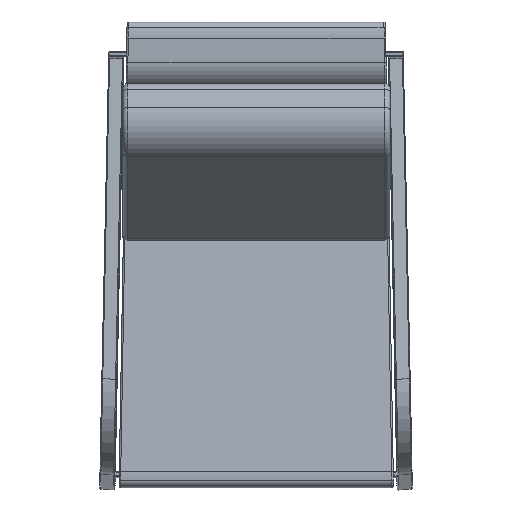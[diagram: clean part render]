
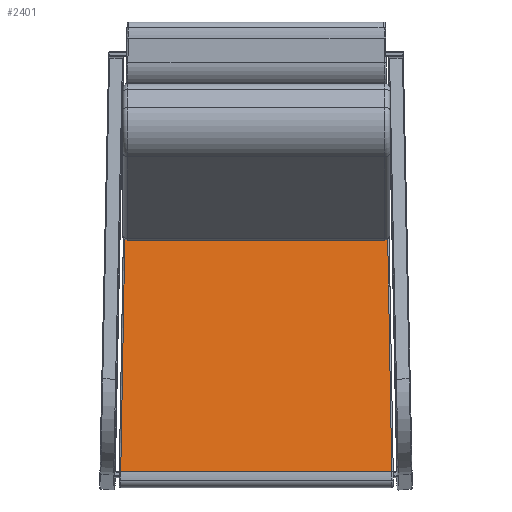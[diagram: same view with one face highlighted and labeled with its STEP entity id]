
A CAD part, top view. The second image highlights one B-rep face of the part: STEP entity #2401.
In plain terms, the highlighted planar face has unit normal (0, 0.132, 0.991).
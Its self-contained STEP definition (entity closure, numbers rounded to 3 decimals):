
#2084=CARTESIAN_POINT('',(-263.671,-297.502,-267.192));
#2085=VERTEX_POINT('',#2084);
#2118=CARTESIAN_POINT('',(-273.187,-842.698,-194.653));
#2119=VERTEX_POINT('',#2118);
#2127=CARTESIAN_POINT('',(-273.187,-842.698,-194.653));
#2128=DIRECTION('',(0.017,0.991,-0.132));
#2129=VECTOR('',#2128,550.082);
#2130=LINE('',#2127,#2129);
#2131=EDGE_CURVE('',#2119,#2085,#2130,.T.);
#2359=CARTESIAN_POINT('',(264.671,-297.502,-267.192));
#2360=VERTEX_POINT('',#2359);
#2361=CARTESIAN_POINT('',(-263.671,-297.502,-267.192));
#2362=DIRECTION('',(1.0,0.0,0.0));
#2363=VECTOR('',#2362,528.342);
#2364=LINE('',#2361,#2363);
#2365=EDGE_CURVE('',#2085,#2360,#2364,.T.);
#2378=CARTESIAN_POINT('',(0.5,-842.698,-194.653));
#2379=DIRECTION('',(0.,0.132,0.991));
#2380=DIRECTION('',(0.,0.991,-0.132));
#2381=AXIS2_PLACEMENT_3D('',#2378,#2379,#2380);
#2382=PLANE('',#2381);
#2383=ORIENTED_EDGE('',*,*,#2131,.F.);
#2384=CARTESIAN_POINT('',(274.187,-842.698,-194.653));
#2385=VERTEX_POINT('',#2384);
#2386=CARTESIAN_POINT('',(-273.187,-842.698,-194.653));
#2387=DIRECTION('',(1.0,0.0,0.0));
#2388=VECTOR('',#2387,547.375);
#2389=LINE('',#2386,#2388);
#2390=EDGE_CURVE('',#2119,#2385,#2389,.T.);
#2391=ORIENTED_EDGE('',*,*,#2390,.T.);
#2392=CARTESIAN_POINT('',(264.671,-297.502,-267.192));
#2393=DIRECTION('',(0.017,-0.991,0.132));
#2394=VECTOR('',#2393,550.082);
#2395=LINE('',#2392,#2394);
#2396=EDGE_CURVE('',#2360,#2385,#2395,.T.);
#2397=ORIENTED_EDGE('',*,*,#2396,.F.);
#2398=ORIENTED_EDGE('',*,*,#2365,.F.);
#2399=EDGE_LOOP('',(#2383,#2391,#2397,#2398));
#2400=FACE_OUTER_BOUND('',#2399,.T.);
#2401=ADVANCED_FACE('',(#2400),#2382,.T.);
